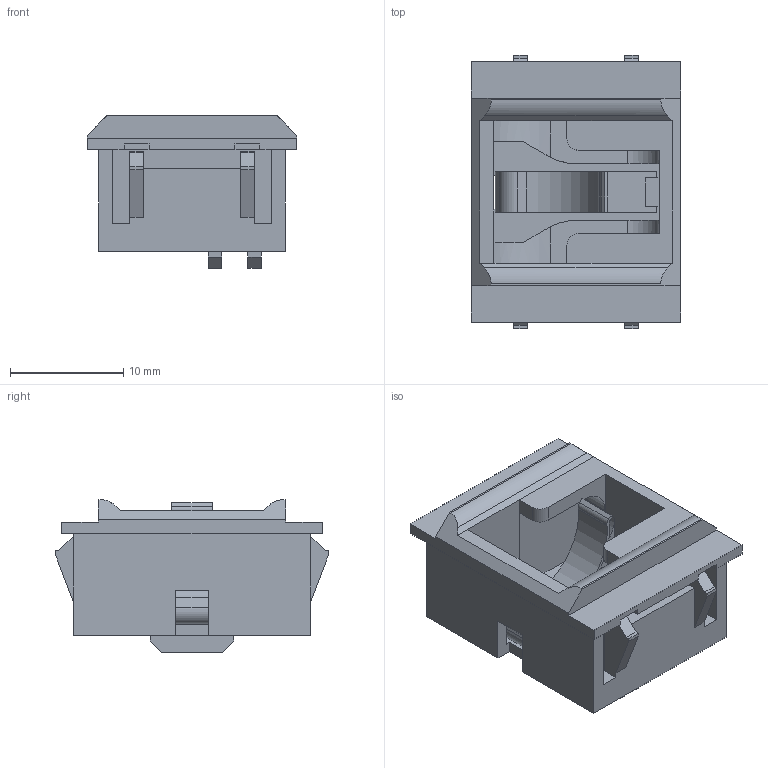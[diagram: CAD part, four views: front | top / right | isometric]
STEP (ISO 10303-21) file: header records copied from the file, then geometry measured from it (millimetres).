
FILE_DESCRIPTION((' '),'1');
FILE_NAME('01VYS01Y04.stp','2014-07-30 T07:16:20',(''),(''),'STEP Interface 2013.192 by CT CoreTechnologie','3D_Evolution2013.192 by CT CoreTechnologie','');
FILE_SCHEMA(('AP203_CONFIGURATION_CONTROLLED_3D_DESIGN_OF_MECHANICAL_PARTS_AND_ASSEMBLIES_MIM_LF'));
Length unit declared in the file: millimetre
Products named in the file (1): 01VYS01Y04
Bounding box: 18.5 x 24.2 x 13.5 mm (x, y, z)
Volume: 1692.3 mm3; surface area: 3316.9 mm2
Topology: 1 solids, 1 shells, 280 faces, 788 edges, 520 vertices
Faces by surface type: plane 226, cylinder 36, bspline 18
Entity records: 11876 total; most frequent: CARTESIAN_POINT 2423, ORIENTED_EDGE 1576, DIRECTION 1346, EDGE_CURVE 788, VECTOR 676, LINE 676, VERTEX_POINT 520, AXIS2_PLACEMENT_3D 335
